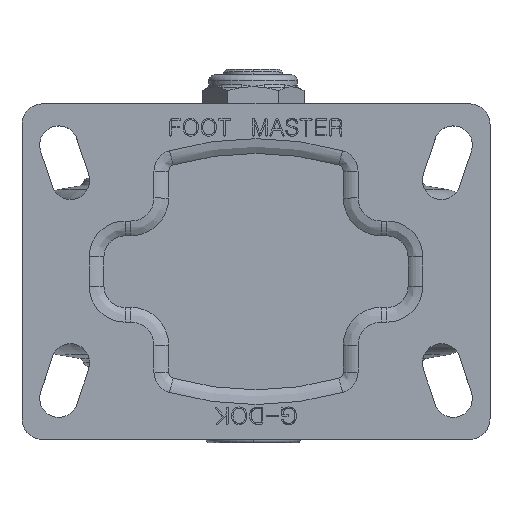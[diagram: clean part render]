
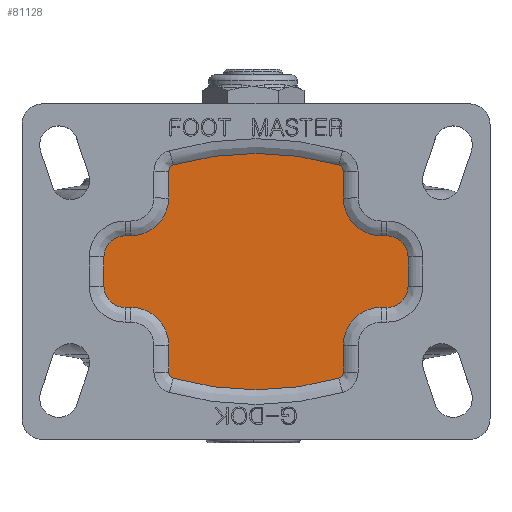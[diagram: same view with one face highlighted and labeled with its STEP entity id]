
A CAD part, top view. The second image highlights one B-rep face of the part: STEP entity #81128.
In plain terms, the highlighted planar face has unit normal (0, 0, 1).
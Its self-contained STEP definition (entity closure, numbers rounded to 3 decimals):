
#79440=CARTESIAN_POINT('',(-51.662,-5.,2.5));
#79441=VERTEX_POINT('',#79440);
#79458=CARTESIAN_POINT('',(-44.5,-12.162,2.5));
#79459=VERTEX_POINT('',#79458);
#79467=CARTESIAN_POINT('',(-44.5,-5.,2.5));
#79468=DIRECTION('',(0.0,0.0,1.0));
#79469=DIRECTION('',(1.0,0.0,0.0));
#79470=AXIS2_PLACEMENT_3D('',#79467,#79468,#79469);
#79471=CIRCLE('',#79470,7.162);
#79472=EDGE_CURVE('',#79441,#79459,#79471,.T.);
#79491=CARTESIAN_POINT('',(-42.5,-12.162,2.5));
#79492=VERTEX_POINT('',#79491);
#79500=CARTESIAN_POINT('',(-44.5,-12.162,2.5));
#79501=DIRECTION('',(1.0,0.0,0.0));
#79502=VECTOR('',#79501,2.);
#79503=LINE('',#79500,#79502);
#79504=EDGE_CURVE('',#79459,#79492,#79503,.T.);
#79554=CARTESIAN_POINT('',(-29.662,-25.,2.5));
#79555=VERTEX_POINT('',#79554);
#79563=CARTESIAN_POINT('',(-42.5,-25.,2.5));
#79564=DIRECTION('',(0.0,0.0,-1.0));
#79565=DIRECTION('',(1.0,0.0,0.0));
#79566=AXIS2_PLACEMENT_3D('',#79563,#79564,#79565);
#79567=CIRCLE('',#79566,12.838);
#79568=EDGE_CURVE('',#79492,#79555,#79567,.T.);
#79587=CARTESIAN_POINT('',(-29.662,-34.164,2.5));
#79588=VERTEX_POINT('',#79587);
#79596=CARTESIAN_POINT('',(-29.662,-25.,2.5));
#79597=DIRECTION('',(0.0,-1.0,0.0));
#79598=VECTOR('',#79597,9.164);
#79599=LINE('',#79596,#79598);
#79600=EDGE_CURVE('',#79555,#79588,#79599,.T.);
#79632=CARTESIAN_POINT('',(-28.092,-36.244,2.5));
#79633=VERTEX_POINT('',#79632);
#79641=CARTESIAN_POINT('',(-27.5,-34.164,2.5));
#79642=DIRECTION('',(0.0,0.0,1.0));
#79643=DIRECTION('',(1.0,0.0,0.0));
#79644=AXIS2_PLACEMENT_3D('',#79641,#79642,#79643);
#79645=CIRCLE('',#79644,2.162);
#79646=EDGE_CURVE('',#79588,#79633,#79645,.T.);
#79678=CARTESIAN_POINT('',(28.092,-36.244,2.5));
#79679=VERTEX_POINT('',#79678);
#79687=CARTESIAN_POINT('',(0.,62.5,2.5));
#79688=DIRECTION('',(0.0,0.0,1.0));
#79689=DIRECTION('',(1.0,0.0,0.0));
#79690=AXIS2_PLACEMENT_3D('',#79687,#79688,#79689);
#79691=CIRCLE('',#79690,102.662);
#79692=EDGE_CURVE('',#79633,#79679,#79691,.T.);
#79724=CARTESIAN_POINT('',(29.662,-34.164,2.5));
#79725=VERTEX_POINT('',#79724);
#79733=CARTESIAN_POINT('',(27.5,-34.164,2.5));
#79734=DIRECTION('',(0.0,0.0,1.0));
#79735=DIRECTION('',(1.0,0.0,0.0));
#79736=AXIS2_PLACEMENT_3D('',#79733,#79734,#79735);
#79737=CIRCLE('',#79736,2.162);
#79738=EDGE_CURVE('',#79679,#79725,#79737,.T.);
#79757=CARTESIAN_POINT('',(29.662,-25.,2.5));
#79758=VERTEX_POINT('',#79757);
#79766=CARTESIAN_POINT('',(29.662,-34.164,2.5));
#79767=DIRECTION('',(0.0,1.0,0.0));
#79768=VECTOR('',#79767,9.164);
#79769=LINE('',#79766,#79768);
#79770=EDGE_CURVE('',#79725,#79758,#79769,.T.);
#79820=CARTESIAN_POINT('',(42.5,-12.162,2.5));
#79821=VERTEX_POINT('',#79820);
#79829=CARTESIAN_POINT('',(42.5,-25.,2.5));
#79830=DIRECTION('',(0.0,0.0,-1.0));
#79831=DIRECTION('',(1.0,0.0,0.0));
#79832=AXIS2_PLACEMENT_3D('',#79829,#79830,#79831);
#79833=CIRCLE('',#79832,12.838);
#79834=EDGE_CURVE('',#79758,#79821,#79833,.T.);
#79853=CARTESIAN_POINT('',(44.5,-12.162,2.5));
#79854=VERTEX_POINT('',#79853);
#79862=CARTESIAN_POINT('',(42.5,-12.162,2.5));
#79863=DIRECTION('',(1.0,0.0,0.0));
#79864=VECTOR('',#79863,2.);
#79865=LINE('',#79862,#79864);
#79866=EDGE_CURVE('',#79821,#79854,#79865,.T.);
#79916=CARTESIAN_POINT('',(51.662,-5.,2.5));
#79917=VERTEX_POINT('',#79916);
#79925=CARTESIAN_POINT('',(44.5,-5.,2.5));
#79926=DIRECTION('',(0.0,0.0,1.0));
#79927=DIRECTION('',(1.0,0.0,0.0));
#79928=AXIS2_PLACEMENT_3D('',#79925,#79926,#79927);
#79929=CIRCLE('',#79928,7.162);
#79930=EDGE_CURVE('',#79854,#79917,#79929,.T.);
#79949=CARTESIAN_POINT('',(51.662,5.,2.5));
#79950=VERTEX_POINT('',#79949);
#79958=CARTESIAN_POINT('',(51.662,-5.,2.5));
#79959=DIRECTION('',(0.0,1.0,0.0));
#79960=VECTOR('',#79959,10.);
#79961=LINE('',#79958,#79960);
#79962=EDGE_CURVE('',#79917,#79950,#79961,.T.);
#80012=CARTESIAN_POINT('',(44.5,12.162,2.5));
#80013=VERTEX_POINT('',#80012);
#80021=CARTESIAN_POINT('',(44.5,5.,2.5));
#80022=DIRECTION('',(0.0,0.0,1.0));
#80023=DIRECTION('',(1.0,0.0,0.0));
#80024=AXIS2_PLACEMENT_3D('',#80021,#80022,#80023);
#80025=CIRCLE('',#80024,7.162);
#80026=EDGE_CURVE('',#79950,#80013,#80025,.T.);
#80045=CARTESIAN_POINT('',(42.5,12.162,2.5));
#80046=VERTEX_POINT('',#80045);
#80054=CARTESIAN_POINT('',(44.5,12.162,2.5));
#80055=DIRECTION('',(-1.0,0.0,0.0));
#80056=VECTOR('',#80055,2.);
#80057=LINE('',#80054,#80056);
#80058=EDGE_CURVE('',#80013,#80046,#80057,.T.);
#80108=CARTESIAN_POINT('',(29.662,25.,2.5));
#80109=VERTEX_POINT('',#80108);
#80117=CARTESIAN_POINT('',(42.5,25.,2.5));
#80118=DIRECTION('',(0.0,0.0,-1.0));
#80119=DIRECTION('',(1.0,0.0,0.0));
#80120=AXIS2_PLACEMENT_3D('',#80117,#80118,#80119);
#80121=CIRCLE('',#80120,12.838);
#80122=EDGE_CURVE('',#80046,#80109,#80121,.T.);
#80141=CARTESIAN_POINT('',(29.662,34.164,2.5));
#80142=VERTEX_POINT('',#80141);
#80150=CARTESIAN_POINT('',(29.662,25.,2.5));
#80151=DIRECTION('',(0.0,1.0,0.0));
#80152=VECTOR('',#80151,9.164);
#80153=LINE('',#80150,#80152);
#80154=EDGE_CURVE('',#80109,#80142,#80153,.T.);
#80186=CARTESIAN_POINT('',(28.092,36.244,2.5));
#80187=VERTEX_POINT('',#80186);
#80195=CARTESIAN_POINT('',(27.5,34.164,2.5));
#80196=DIRECTION('',(0.0,0.0,1.0));
#80197=DIRECTION('',(1.0,0.0,0.0));
#80198=AXIS2_PLACEMENT_3D('',#80195,#80196,#80197);
#80199=CIRCLE('',#80198,2.162);
#80200=EDGE_CURVE('',#80142,#80187,#80199,.T.);
#80232=CARTESIAN_POINT('',(-28.092,36.244,2.5));
#80233=VERTEX_POINT('',#80232);
#80241=CARTESIAN_POINT('',(0.,-62.5,2.5));
#80242=DIRECTION('',(0.0,0.0,1.0));
#80243=DIRECTION('',(1.0,0.0,0.0));
#80244=AXIS2_PLACEMENT_3D('',#80241,#80242,#80243);
#80245=CIRCLE('',#80244,102.662);
#80246=EDGE_CURVE('',#80187,#80233,#80245,.T.);
#80278=CARTESIAN_POINT('',(-29.662,34.164,2.5));
#80279=VERTEX_POINT('',#80278);
#80287=CARTESIAN_POINT('',(-27.5,34.164,2.5));
#80288=DIRECTION('',(0.0,0.0,1.0));
#80289=DIRECTION('',(1.0,0.0,0.0));
#80290=AXIS2_PLACEMENT_3D('',#80287,#80288,#80289);
#80291=CIRCLE('',#80290,2.162);
#80292=EDGE_CURVE('',#80233,#80279,#80291,.T.);
#80311=CARTESIAN_POINT('',(-29.662,25.,2.5));
#80312=VERTEX_POINT('',#80311);
#80320=CARTESIAN_POINT('',(-29.662,34.164,2.5));
#80321=DIRECTION('',(0.0,-1.0,0.0));
#80322=VECTOR('',#80321,9.164);
#80323=LINE('',#80320,#80322);
#80324=EDGE_CURVE('',#80279,#80312,#80323,.T.);
#80374=CARTESIAN_POINT('',(-42.5,12.162,2.5));
#80375=VERTEX_POINT('',#80374);
#80383=CARTESIAN_POINT('',(-42.5,25.,2.5));
#80384=DIRECTION('',(0.0,0.0,-1.0));
#80385=DIRECTION('',(1.0,0.0,0.0));
#80386=AXIS2_PLACEMENT_3D('',#80383,#80384,#80385);
#80387=CIRCLE('',#80386,12.838);
#80388=EDGE_CURVE('',#80312,#80375,#80387,.T.);
#80407=CARTESIAN_POINT('',(-44.5,12.162,2.5));
#80408=VERTEX_POINT('',#80407);
#80416=CARTESIAN_POINT('',(-42.5,12.162,2.5));
#80417=DIRECTION('',(-1.0,0.0,0.0));
#80418=VECTOR('',#80417,2.);
#80419=LINE('',#80416,#80418);
#80420=EDGE_CURVE('',#80375,#80408,#80419,.T.);
#80470=CARTESIAN_POINT('',(-51.662,5.,2.5));
#80471=VERTEX_POINT('',#80470);
#80479=CARTESIAN_POINT('',(-44.5,5.,2.5));
#80480=DIRECTION('',(0.0,0.0,1.0));
#80481=DIRECTION('',(1.0,0.0,0.0));
#80482=AXIS2_PLACEMENT_3D('',#80479,#80480,#80481);
#80483=CIRCLE('',#80482,7.162);
#80484=EDGE_CURVE('',#80408,#80471,#80483,.T.);
#80502=CARTESIAN_POINT('',(-51.662,5.,2.5));
#80503=DIRECTION('',(0.0,-1.0,0.0));
#80504=VECTOR('',#80503,10.0);
#80505=LINE('',#80502,#80504);
#80506=EDGE_CURVE('',#80471,#79441,#80505,.T.);
#81097=CARTESIAN_POINT('',(0.,0.,2.5));
#81098=DIRECTION('',(0.0,0.0,1.0));
#81099=DIRECTION('',(1.0,0.0,0.0));
#81100=AXIS2_PLACEMENT_3D('',#81097,#81098,#81099);
#81101=PLANE('',#81100);
#81102=ORIENTED_EDGE('',*,*,#79646,.T.);
#81103=ORIENTED_EDGE('',*,*,#79692,.T.);
#81104=ORIENTED_EDGE('',*,*,#79738,.T.);
#81105=ORIENTED_EDGE('',*,*,#79770,.T.);
#81106=ORIENTED_EDGE('',*,*,#79834,.T.);
#81107=ORIENTED_EDGE('',*,*,#79866,.T.);
#81108=ORIENTED_EDGE('',*,*,#79930,.T.);
#81109=ORIENTED_EDGE('',*,*,#79962,.T.);
#81110=ORIENTED_EDGE('',*,*,#80026,.T.);
#81111=ORIENTED_EDGE('',*,*,#80058,.T.);
#81112=ORIENTED_EDGE('',*,*,#80122,.T.);
#81113=ORIENTED_EDGE('',*,*,#80154,.T.);
#81114=ORIENTED_EDGE('',*,*,#80200,.T.);
#81115=ORIENTED_EDGE('',*,*,#80246,.T.);
#81116=ORIENTED_EDGE('',*,*,#80292,.T.);
#81117=ORIENTED_EDGE('',*,*,#80324,.T.);
#81118=ORIENTED_EDGE('',*,*,#80388,.T.);
#81119=ORIENTED_EDGE('',*,*,#80420,.T.);
#81120=ORIENTED_EDGE('',*,*,#80484,.T.);
#81121=ORIENTED_EDGE('',*,*,#80506,.T.);
#81122=ORIENTED_EDGE('',*,*,#79472,.T.);
#81123=ORIENTED_EDGE('',*,*,#79504,.T.);
#81124=ORIENTED_EDGE('',*,*,#79568,.T.);
#81125=ORIENTED_EDGE('',*,*,#79600,.T.);
#81126=EDGE_LOOP('',(#81102,#81103,#81104,#81105,#81106,#81107,#81108,#81109,#81110,#81111,#81112,#81113,#81114,#81115,#81116,#81117,#81118,#81119,#81120,#81121,#81122,#81123,#81124,#81125));
#81127=FACE_OUTER_BOUND('',#81126,.T.);
#81128=ADVANCED_FACE('',(#81127),#81101,.T.);
